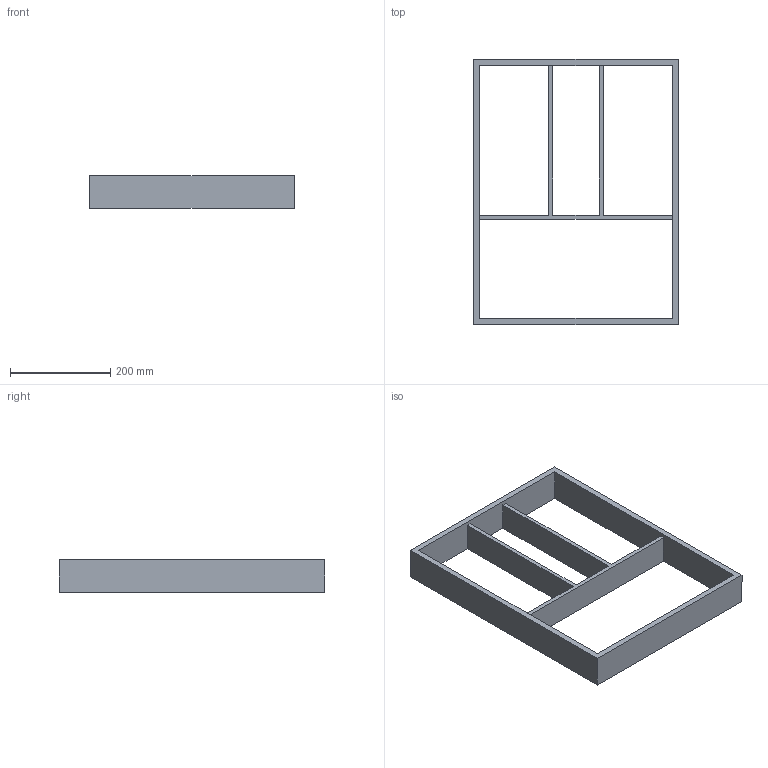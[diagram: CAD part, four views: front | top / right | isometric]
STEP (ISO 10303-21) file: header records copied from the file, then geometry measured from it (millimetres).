
FILE_DESCRIPTION (( 'STEP AP214' ), '1' );
FILE_NAME ('Vario Multi NL550_B500_16 mm_Buche.step', '2010-10-07T06:24:17', ( 'grass' ), ( '' ), 'SwSTEP 2.0', 'SolidWorks 2010', '' );
FILE_SCHEMA (( 'AUTOMOTIVE_DESIGN' ));
Length unit declared in the file: millimetre
Products named in the file (1): Vario Multi NL550_B500_16 mm_Buche
Bounding box: 408 x 529 x 65 mm (x, y, z)
Volume: 1871889.6 mm3; surface area: 406076 mm2
Topology: 1 solids, 1 shells, 19 faces, 60 edges, 40 vertices
Faces by surface type: plane 19
Entity records: 704 total; most frequent: ORIENTED_EDGE 120, CARTESIAN_POINT 120, DIRECTION 100, LINE 60, EDGE_CURVE 60, VECTOR 60, VERTEX_POINT 40, EDGE_LOOP 24
